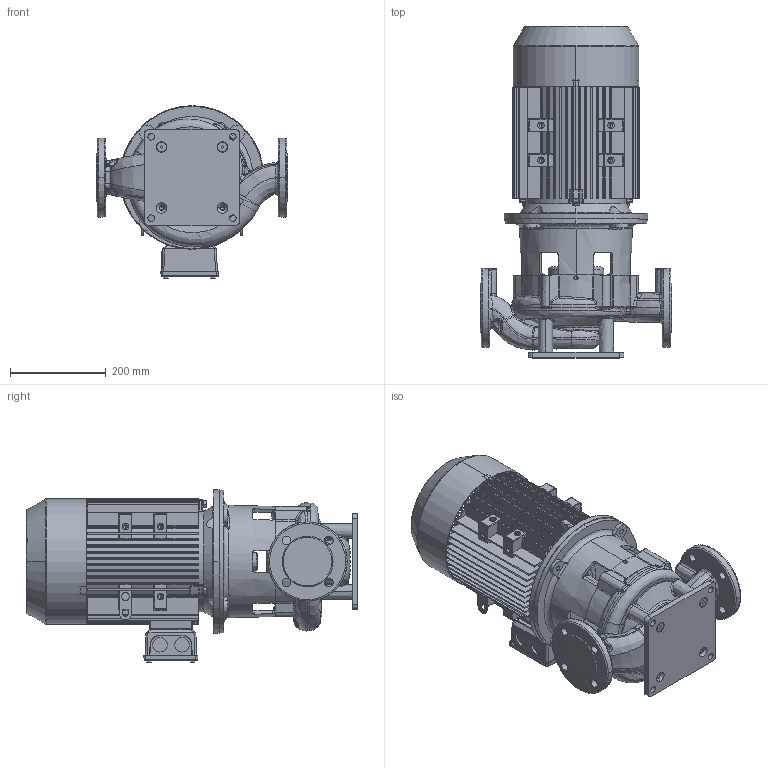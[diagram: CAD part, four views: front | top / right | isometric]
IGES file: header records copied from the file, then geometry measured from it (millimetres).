
Start section:  PTC IGES file: esl50-180_a12_motor_4a_132.igs
Global section: file name: esl50-180_a12_motor_4a_132.igs; native system: Creo Parametric by Parametric Technology Corporation; preprocessor: 2017170; author: brhe; organization: Unknown; date: 20190830.143753; units: millimetre
Bounding box: 400 x 693 x 360.5 mm (x, y, z)
Volume: 21206498.3 mm3; surface area: 1931153.2 mm2
Topology: 1 solids, 2 shells, 3429 faces, 9445 edges, 6089 vertices
Faces by surface type: bspline 2265, revolution 828, extrusion 336
